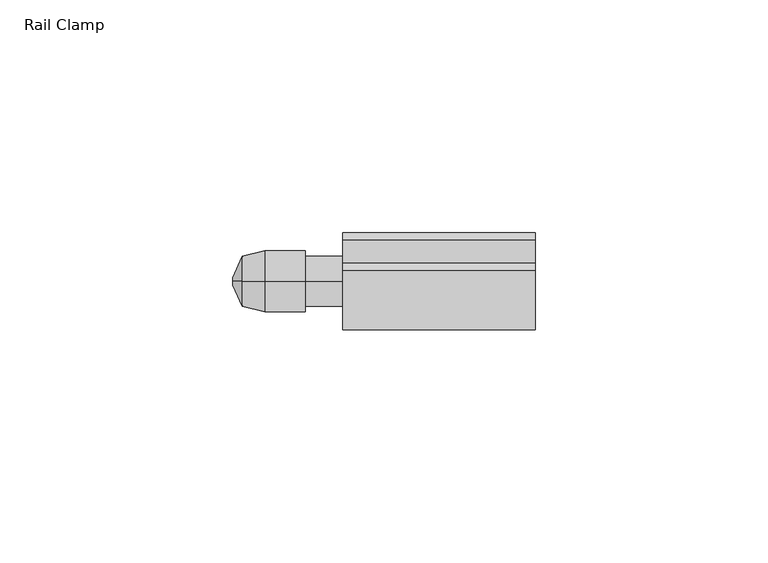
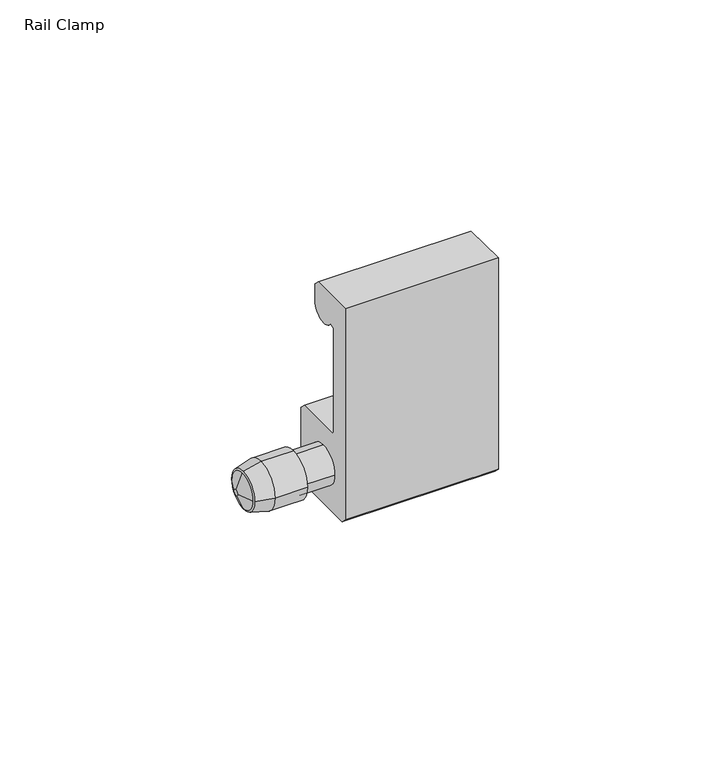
"""IFC4 building model written with IfcOpenShell, lengths in millimetres: furniture geometry, HermanMiller_Compass_TW705_UniversalRailClamp : Rail Clamp."""

from ifc_helpers import new_model, si_unit, frame, origin, place, context, project, spatial, polyline, circle_curve, source, transform, mapped, element, save
from ifc_brep_helpers import plane_surface, cylinder_surface, revolved_surface, advanced_brep


def rail_clamp_bc9ce31f(model_context):
    return source(origin(), model_context, "Body", "AdvancedBrep", [
        advanced_brep(
        [(-42.2627645, -46.5617724, 1333.6693035), (-42.2627645, -41.2023724, 1339.0287035), (-42.2627645, -35.8429724, 1333.6693035), (-42.2627645, -41.2023724, 1328.3099035), (-37.4502448, -47.7301724, 1333.6693035), (-37.4502448, -41.2023724, 1327.1415035), (-37.4502448, -34.6745724, 1333.6693035), (-37.4502448, -41.2023724, 1340.1971035)],
        [
            (0, 1, circle_curve(frame((-42.2627645, -41.2023724, 1333.6693035), z_axis=(-1.0, 0.0, 1.912588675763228e-12), x_axis=(0.0, -1.0, 7.182660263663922e-12)), 5.3594)),
            (1, 2, circle_curve(frame((-42.2627645, -41.2023724, 1333.6693035), z_axis=(-1.0, -1.8334834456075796e-12, 0.0), x_axis=(0.0, -7.421599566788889e-12, 1.0)), 5.3594)),
            (2, 3, circle_curve(frame((-42.2627645, -41.2023724, 1333.6693035), z_axis=(-1.0, 0.0, 1.1813047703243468e-12), x_axis=(0.0, 1.0, 8.109455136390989e-12)), 5.3594)),
            (3, 0, circle_curve(frame((-42.2627645, -41.2023724, 1333.6693035), z_axis=(-1.0, -1.0846206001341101e-12, 0.0), x_axis=(0.0, -6.34999299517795e-12, -1.0)), 5.3594)),
            (4, 5, circle_curve(frame((-37.4502448, -41.2023724, 1333.6693035), z_axis=(1.0, 1.0846206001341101e-12, 0.0), x_axis=(0.0, -6.34999299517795e-12, -1.0)), 6.5278)),
            (5, 6, circle_curve(frame((-37.4502448, -41.2023724, 1333.6693035), z_axis=(1.0, 0.0, -1.1813047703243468e-12), x_axis=(0.0, 1.0, 8.109455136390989e-12)), 6.5278)),
            (6, 7, circle_curve(frame((-37.4502448, -41.2023724, 1333.6693035), z_axis=(1.0, 1.8334834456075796e-12, 0.0), x_axis=(0.0, -7.421599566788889e-12, 1.0)), 6.5278)),
            (7, 4, circle_curve(frame((-37.4502448, -41.2023724, 1333.6693035), z_axis=(1.0, 0.0, -1.912588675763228e-12), x_axis=(0.0, -1.0, 7.182660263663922e-12)), 6.5278)),
            (4, 0),
            (3, 5),
            (2, 6),
            (1, 7),
        ],
        [
            plane_surface(frame((-42.2627645, -41.2023724, 1333.6693035), z_axis=(-1.0, 0.0, 0.0), x_axis=(0.0, 0.0, -1.0))),
            plane_surface(frame((-37.4502448, -41.2023724, 1333.6693035), z_axis=(1.0, 0.0, 0.0), x_axis=(0.0, 0.0, -1.0))),
            revolved_surface(polyline([(-42.262764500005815, -41.2023724, 1328.3099035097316), (-37.4502448, -41.2023724, 1327.1415035)]), (-64.3375829, -41.2023724, 1333.6693035), (1.0, 1.0846206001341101e-12, 0.0)),
            revolved_surface(polyline([(-42.2627645, -35.84297240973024, 1333.6693035), (-37.45024479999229, -34.67457239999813, 1333.6693035)]), (-64.3375829, -41.2023724, 1333.6693035), (1.0, 0.0, -1.1813047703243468e-12)),
            revolved_surface(polyline([(-42.2627645, -41.2023724, 1339.0287034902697), (-37.45024479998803, -41.2023724, 1340.1971035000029)]), (-64.3375829, -41.2023724, 1333.6693035), (1.0, 1.8334834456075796e-12, 0.0)),
            revolved_surface(polyline([(-42.26276450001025, -46.56177239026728, 1333.6693035), (-37.4502448, -47.7301724, 1333.6693035)]), (-64.3375829, -41.2023724, 1333.6693035), (1.0, 0.0, -1.912588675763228e-12)),
        ],
        [
            (0, [[1, 2, 3, 4]]),
            (1, [[5, 6, 7, 8]]),
            (2, [[-5, 9, -4, 10]]),
            (3, [[-6, -10, -3, 11]]),
            (4, [[-7, -11, -2, 12]]),
            (5, [[-8, -12, -1, -9]]),
        ],
    ),
        advanced_brep(
        [(-20.6375, -30.8010724, 1323.9749982), (-20.6375, -32.3758712, 1322.4002), (-20.6375, -50.0288731, 1322.4002), (-20.6375, -51.6036724, 1323.9749982), (-20.6375, -51.6036724, 1384.2492), (-20.6375, -38.9100224, 1384.2492), (-20.6375, -37.3352224, 1382.6743995), (-20.6375, -37.3352224, 1377.9246001), (-20.6375, -44.603154, 1375.7396341), (-20.6375, -46.0474222, 1375.3054422), (-20.6375, -46.0474222, 1345.5710319), (-20.6375, -45.4521097, 1344.9757194), (-20.6375, -32.3758724, 1344.9757194), (-20.6375, -30.8010724, 1343.40092), (-20.6375, -46.5617724, 1333.6693035), (-20.6375, -41.2023724, 1328.3099035), (-20.6375, -35.8429724, 1333.6693035), (-20.6375, -41.2023724, 1339.0287035), (20.6375, -30.8010724, 1323.9749982), (20.6375, -30.8010724, 1343.40092), (20.6375, -32.3758724, 1344.9757194), (20.6375, -45.4521097, 1344.9757194), (20.6375, -46.0474222, 1345.5710319), (20.6375, -46.0474222, 1375.3054422), (20.6375, -44.603154, 1375.7396341), (20.6375, -37.3352224, 1377.9246001), (20.6375, -37.3352224, 1382.6743995), (20.6375, -38.9100224, 1384.2492), (20.6375, -51.6036724, 1384.2492), (20.6375, -51.6036724, 1323.9749982), (20.6375, -50.0288731, 1322.4002), (20.6375, -32.3758712, 1322.4002), (-28.6997615, -46.5617724, 1333.6693035), (-28.6997615, -41.2023724, 1328.3099035), (-28.6997615, -35.8429724, 1333.6693035), (-28.6997615, -41.2023724, 1339.0287035), (-28.6997615, -47.7301724, 1333.6693035), (-28.6997615, -41.2023724, 1327.1415035), (-28.6997615, -34.6745724, 1333.6693035), (-28.6997615, -41.2023724, 1340.1971035), (-37.4502448, -47.7301724, 1333.6693035), (-37.4502448, -41.2023724, 1340.1971035), (-37.4502448, -34.6745724, 1333.6693035), (-37.4502448, -41.2023724, 1327.1415035)],
        [
            (0, 1),
            (1, 2),
            (2, 3),
            (3, 4),
            (4, 5),
            (5, 6),
            (6, 7),
            (7, 8, circle_curve(frame((-20.6375, -41.2976225, 1377.9246001), z_axis=(-1.0, 0.0, 0.0), x_axis=(0.0, 1.0, 0.0)), 3.9624001)),
            (8, 9),
            (9, 10),
            (10, 11),
            (11, 12),
            (12, 13),
            (13, 0),
            (14, 15, circle_curve(frame((-20.6375, -41.2023724, 1333.6693035), z_axis=(1.0, 0.0, 0.0), x_axis=(0.0, 1.0, 0.0)), 5.3594)),
            (15, 16, circle_curve(frame((-20.6375, -41.2023724, 1333.6693035), z_axis=(1.0, 0.0, 0.0), x_axis=(0.0, 1.0, 0.0)), 5.3594)),
            (16, 17, circle_curve(frame((-20.6375, -41.2023724, 1333.6693035), z_axis=(1.0, 0.0, 0.0), x_axis=(0.0, 1.0, 0.0)), 5.3594)),
            (17, 14, circle_curve(frame((-20.6375, -41.2023724, 1333.6693035), z_axis=(1.0, 0.0, 0.0), x_axis=(0.0, 1.0, 0.0)), 5.3594)),
            (18, 19),
            (19, 20),
            (20, 21),
            (21, 22),
            (22, 23),
            (23, 24),
            (24, 25, circle_curve(frame((20.6375, -41.2976225, 1377.9246001), z_axis=(1.0, 0.0, 0.0), x_axis=(0.0, 1.0, 0.0)), 3.9624001)),
            (25, 26),
            (26, 27),
            (27, 28),
            (28, 29),
            (29, 30),
            (30, 31),
            (31, 18),
            (0, 18),
            (31, 1),
            (30, 2),
            (29, 3),
            (28, 4),
            (27, 5),
            (26, 6),
            (25, 7),
            (24, 8),
            (23, 9),
            (22, 10),
            (21, 11),
            (20, 12),
            (19, 13),
            (14, 32),
            (32, 33, circle_curve(frame((-28.6997615, -41.2023724, 1333.6693035), z_axis=(1.0, 0.0, 0.0), x_axis=(0.0, 1.0, 0.0)), 5.3594)),
            (33, 15),
            (33, 34, circle_curve(frame((-28.6997615, -41.2023724, 1333.6693035), z_axis=(1.0, 0.0, 0.0), x_axis=(0.0, 1.0, 0.0)), 5.3594)),
            (34, 16),
            (34, 35, circle_curve(frame((-28.6997615, -41.2023724, 1333.6693035), z_axis=(1.0, 0.0, 0.0), x_axis=(0.0, 1.0, 0.0)), 5.3594)),
            (35, 17),
            (35, 32, circle_curve(frame((-28.6997615, -41.2023724, 1333.6693035), z_axis=(1.0, 0.0, 0.0), x_axis=(0.0, 1.0, 0.0)), 5.3594)),
            (36, 37, circle_curve(frame((-28.6997615, -41.2023724, 1333.6693035), z_axis=(1.0, 0.0, 0.0), x_axis=(0.0, 1.0, 0.0)), 6.5278)),
            (37, 38, circle_curve(frame((-28.6997615, -41.2023724, 1333.6693035), z_axis=(1.0, 0.0, 0.0), x_axis=(0.0, 1.0, 0.0)), 6.5278)),
            (38, 39, circle_curve(frame((-28.6997615, -41.2023724, 1333.6693035), z_axis=(1.0, 0.0, 0.0), x_axis=(0.0, 1.0, 0.0)), 6.5278)),
            (39, 36, circle_curve(frame((-28.6997615, -41.2023724, 1333.6693035), z_axis=(1.0, 0.0, 0.0), x_axis=(0.0, 1.0, 0.0)), 6.5278)),
            (40, 41, circle_curve(frame((-37.4502448, -41.2023724, 1333.6693035), z_axis=(-1.0, 0.0, 0.0), x_axis=(0.0, 1.0, 0.0)), 6.5278)),
            (41, 42, circle_curve(frame((-37.4502448, -41.2023724, 1333.6693035), z_axis=(-1.0, 0.0, 0.0), x_axis=(0.0, 1.0, 0.0)), 6.5278)),
            (42, 43, circle_curve(frame((-37.4502448, -41.2023724, 1333.6693035), z_axis=(-1.0, 0.0, 0.0), x_axis=(0.0, 1.0, 0.0)), 6.5278)),
            (43, 40, circle_curve(frame((-37.4502448, -41.2023724, 1333.6693035), z_axis=(-1.0, 0.0, 0.0), x_axis=(0.0, 1.0, 0.0)), 6.5278)),
            (36, 40),
            (43, 37),
            (42, 38),
            (41, 39),
        ],
        [
            plane_surface(frame((-20.6375, -41.2023724, 1384.2492), z_axis=(-1.0, 0.0, 0.0), x_axis=(0.0, 0.0, 1.0))),
            plane_surface(frame((20.6375, -41.2023724, 1384.2492), z_axis=(1.0, 0.0, 0.0), x_axis=(0.0, 0.0, 1.0))),
            plane_surface(frame((-20.6375, -30.8010724, 1323.9749982), z_axis=(0.0, 0.7071066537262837, -0.7071069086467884), x_axis=(1.0, 0.0, 0.0))),
            plane_surface(frame((-20.6375, -32.3758712, 1322.4002), z_axis=(0.0, 0.0, -1.0), x_axis=(1.0, 0.0, 0.0))),
            plane_surface(frame((-20.6375, -50.0288731, 1322.4002), z_axis=(0.0, -0.7071065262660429, -0.7071070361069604), x_axis=(1.0, 0.0, 0.0))),
            plane_surface(frame((-20.6375, -51.6036724, 1323.9749982), z_axis=(0.0, -1.0, 0.0), x_axis=(1.0, 0.0, 0.0))),
            plane_surface(frame((-20.6375, -51.6036724, 1384.2492), z_axis=(0.0, 0.0, 1.0), x_axis=(1.0, 0.0, 0.0))),
            plane_surface(frame((-20.6375, -38.9100224, 1384.2492), z_axis=(0.0, 0.7071069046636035, 0.7071066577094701), x_axis=(1.0, 0.0, 0.0))),
            plane_surface(frame((-20.6375, -37.3352224, 1382.6743995), z_axis=(0.0, 1.0, 0.0), x_axis=(1.0, 0.0, 0.0))),
            cylinder_surface(frame((-20.6375, -41.2976225, 1377.9246001), z_axis=(-1.0, 0.0, 0.0), x_axis=(0.0, 1.0, 0.0)), 3.9624001),
            plane_surface(frame((-20.6375, -44.603154, 1375.7396341), z_axis=(0.0, 0.2879022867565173, -0.9576597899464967), x_axis=(1.0, 0.0, 0.0))),
            plane_surface(frame((-20.6375, -46.0474222, 1375.3054422), z_axis=(0.0, 1.0, 0.0), x_axis=(1.0, 0.0, 0.0))),
            plane_surface(frame((-20.6375, -46.0474222, 1345.5710319), z_axis=(0.0, 0.7071067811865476, 0.7071067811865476), x_axis=(1.0, 0.0, 0.0))),
            plane_surface(frame((-20.6375, -45.4521097, 1344.9757194), z_axis=(0.0, 0.0, 1.0), x_axis=(1.0, 0.0, 0.0))),
            plane_surface(frame((-20.6375, -32.3758724, 1344.9757194), z_axis=(0.0, 0.7071066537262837, 0.7071069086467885), x_axis=(1.0, 0.0, 0.0))),
            plane_surface(frame((-20.6375, -30.8010724, 1343.40092), z_axis=(0.0, 1.0, 0.0), x_axis=(1.0, 0.0, 0.0))),
            cylinder_surface(frame((-28.6997615, -41.2023724, 1333.6693035), z_axis=(1.0, 0.0, 0.0), x_axis=(0.0, 1.0, 0.0)), 5.3594),
            plane_surface(frame((-28.6997615, -34.6745724, 1333.6693035), z_axis=(1.0, 0.0, 0.0), x_axis=(0.0, 0.0, 1.0))),
            plane_surface(frame((-37.4502448, -34.6745724, 1333.6693035), z_axis=(-1.0, 0.0, 0.0), x_axis=(0.0, 0.0, -1.0))),
            cylinder_surface(frame((-37.4502448, -41.2023724, 1333.6693035), z_axis=(1.0, 0.0, 0.0), x_axis=(0.0, 1.0, 0.0)), 6.5278),
        ],
        [
            (0, [[1, 2, 3, 4, 5, 6, 7, 8, 9, 10, 11, 12, 13, 14], [15, 16, 17, 18]]),
            (1, [[19, 20, 21, 22, 23, 24, 25, 26, 27, 28, 29, 30, 31, 32]]),
            (2, [[-1, 33, -32, 34]]),
            (3, [[-2, -34, -31, 35]]),
            (4, [[-3, -35, -30, 36]]),
            (5, [[-4, -36, -29, 37]]),
            (6, [[-5, -37, -28, 38]]),
            (7, [[-6, -38, -27, 39]]),
            (8, [[-7, -39, -26, 40]]),
            (9, [[-8, -40, -25, 41]]),
            (10, [[-9, -41, -24, 42]]),
            (11, [[-10, -42, -23, 43]]),
            (12, [[-11, -43, -22, 44]]),
            (13, [[-12, -44, -21, 45]]),
            (14, [[-13, -45, -20, 46]]),
            (15, [[-14, -46, -19, -33]]),
            (16, [[47, 48, 49, -15]]),
            (16, [[-49, 50, 51, -16]]),
            (16, [[-51, 52, 53, -17]]),
            (16, [[-47, -18, -53, 54]]),
            (17, [[55, 56, 57, 58], [-48, -54, -52, -50]]),
            (18, [[59, 60, 61, 62]]),
            (19, [[-55, 63, -62, 64]]),
            (19, [[-56, -64, -61, 65]]),
            (19, [[-57, -65, -60, 66]]),
            (19, [[-58, -66, -59, -63]]),
        ],
    ),
        advanced_brep(
        [(-44.2561748, -41.9961224, 1333.6693035), (-44.2561748, -41.2023724, 1334.4630535), (-44.2561748, -40.4086224, 1333.6693035), (-44.2561748, -41.2023724, 1332.8755535), (-42.2627645, -46.5617724, 1333.6693035), (-42.2627645, -41.2023724, 1328.3099035), (-42.2627645, -35.8429724, 1333.6693035), (-42.2627645, -41.2023724, 1339.0287035)],
        [
            (0, 1, circle_curve(frame((-44.2561748, -41.2023724, 1333.6693035), z_axis=(-1.0, 0.0, 0.0), x_axis=(0.0, -1.0, 0.0)), 0.79375)),
            (1, 2, circle_curve(frame((-44.2561748, -41.2023724, 1333.6693035), z_axis=(-1.0, 0.0, 0.0), x_axis=(0.0, 0.0, 1.0)), 0.79375)),
            (2, 3, circle_curve(frame((-44.2561748, -41.2023724, 1333.6693035), z_axis=(-1.0, 0.0, 2.851922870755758e-12), x_axis=(0.0, 1.0, 0.0)), 0.79375)),
            (3, 0, circle_curve(frame((-44.2561748, -41.2023724, 1333.6693035), z_axis=(-1.0, -2.851922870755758e-12, 0.0), x_axis=(0.0, 0.0, -1.0)), 0.79375)),
            (4, 5, circle_curve(frame((-42.2627645, -41.2023724, 1333.6693035), z_axis=(1.0, 2.851922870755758e-12, 0.0), x_axis=(0.0, 0.0, -1.0)), 5.3594)),
            (5, 6, circle_curve(frame((-42.2627645, -41.2023724, 1333.6693035), z_axis=(1.0, 0.0, -2.851922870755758e-12), x_axis=(0.0, 1.0, 0.0)), 5.3594)),
            (6, 7, circle_curve(frame((-42.2627645, -41.2023724, 1333.6693035), z_axis=(1.0, 0.0, 0.0), x_axis=(0.0, 0.0, 1.0)), 5.3594)),
            (7, 4, circle_curve(frame((-42.2627645, -41.2023724, 1333.6693035), z_axis=(1.0, 0.0, 0.0), x_axis=(0.0, -1.0, 0.0)), 5.3594)),
            (0, 4),
            (7, 1),
            (6, 2),
            (5, 3),
        ],
        [
            plane_surface(frame((-44.2561748, -41.2023724, 1333.6693035), z_axis=(-1.0, 0.0, 0.0), x_axis=(0.0, -1.0, 0.0))),
            plane_surface(frame((-42.2627645, -41.2023724, 1333.6693035), z_axis=(1.0, 0.0, 0.0), x_axis=(0.0, -1.0, 0.0))),
            revolved_surface(polyline([(-44.2561748, -41.99612238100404, 1333.6693035), (-42.2627645, -46.5617724, 1333.6693035)]), (-44.6027343, -41.2023724, 1333.6693035), (1.0, 0.0, 0.0)),
            revolved_surface(polyline([(-44.2561748, -41.2023724, 1334.4630534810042), (-42.2627645, -41.2023724, 1339.0287035)]), (-44.6027343, -41.2023724, 1333.6693035), (1.0, 0.0, 0.0)),
            revolved_surface(polyline([(-44.2561748, -40.40862241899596, 1333.6693035), (-42.26276449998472, -35.84297239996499, 1333.6693035)]), (-44.6027343, -41.2023724, 1333.6693035), (1.0, 0.0, -2.851922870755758e-12)),
            revolved_surface(polyline([(-44.25617480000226, -41.2023724, 1332.8755535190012), (-42.2627645, -41.2023724, 1328.3099035)]), (-44.6027343, -41.2023724, 1333.6693035), (1.0, 2.851922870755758e-12, 0.0)),
        ],
        [
            (0, [[1, 2, 3, 4]]),
            (1, [[5, 6, 7, 8]]),
            (2, [[-1, 9, -8, 10]]),
            (3, [[-2, -10, -7, 11]]),
            (4, [[-3, -11, -6, 12]]),
            (5, [[-4, -12, -5, -9]]),
        ],
    ),
    ])


if __name__ == "__main__":
    model = new_model("IFC4")
    model_context = context("Model", 3, world=origin())
    ifc_project = project(units=[si_unit("LENGTHUNIT", "METRE", prefix="MILLI")], contexts=[model_context])
    site = spatial("IfcSite", under=ifc_project)
    building = spatial("IfcBuilding", under=site)
    placement = place(None, origin())
    rail_clamp_shape = rail_clamp_bc9ce31f(model_context)
    element("IfcFurniture", 1, ObjectType="HermanMiller_Compass_TW705_UniversalRailClamp : Rail Clamp", at=placement, inside=building, context=model_context, shape_type="MappedRepresentation", body=[
        mapped(rail_clamp_shape, transform((0.0, 0.0, 0.0), x_axis=(1.0, 0.0, 0.0), y_axis=(0.0, 1.0, 0.0), z_axis=(0.0, 0.0, 1.0))),
    ])
    save(model, "model.ifc")
